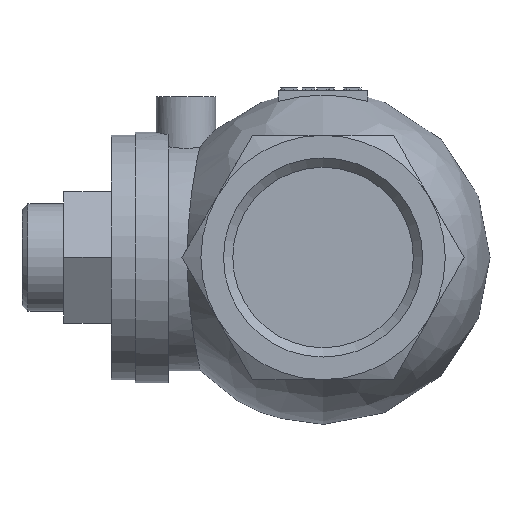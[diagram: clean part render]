
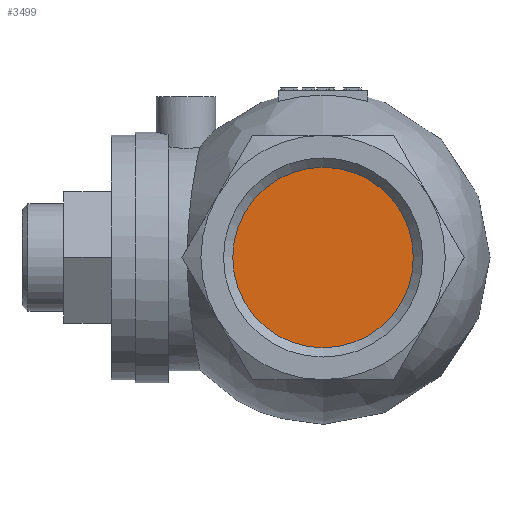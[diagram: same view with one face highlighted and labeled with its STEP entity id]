
A CAD part, left-side view. The second image highlights one B-rep face of the part: STEP entity #3499.
In plain terms, the highlighted planar face has unit normal (-1, 0, 0).
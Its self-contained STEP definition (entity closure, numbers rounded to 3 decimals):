
#324=PLANE('',#3742);
#537=FACE_OUTER_BOUND('',#749,.T.);
#749=EDGE_LOOP('',(#3246,#3247));
#1446=CIRCLE('',#3740,15.146);
#1447=CIRCLE('',#3741,15.146);
#1781=VERTEX_POINT('',#6341);
#1782=VERTEX_POINT('',#6343);
#2282=EDGE_CURVE('',#1782,#1781,#1446,.T.);
#2283=EDGE_CURVE('',#1781,#1782,#1447,.T.);
#3246=ORIENTED_EDGE('',*,*,#2282,.T.);
#3247=ORIENTED_EDGE('',*,*,#2283,.T.);
#3499=ADVANCED_FACE('',(#537),#324,.T.);
#3740=AXIS2_PLACEMENT_3D('',#6344,#4487,#4488);
#3741=AXIS2_PLACEMENT_3D('',#6345,#4489,#4490);
#3742=AXIS2_PLACEMENT_3D('',#6346,#4491,#4492);
#4487=DIRECTION('center_axis',(-1.,0.,0.));
#4488=DIRECTION('ref_axis',(0.,0.,1.));
#4489=DIRECTION('center_axis',(-1.,0.,0.));
#4490=DIRECTION('ref_axis',(0.,0.,1.));
#4491=DIRECTION('center_axis',(-1.,0.,0.));
#4492=DIRECTION('ref_axis',(0.,0.,1.));
#6341=CARTESIAN_POINT('',(-23.,0.,-15.146));
#6343=CARTESIAN_POINT('',(-23.,0.,15.146));
#6344=CARTESIAN_POINT('Origin',(-23.,0.,0.));
#6345=CARTESIAN_POINT('Origin',(-23.,0.,0.));
#6346=CARTESIAN_POINT('Origin',(-23.,0.,0.));
